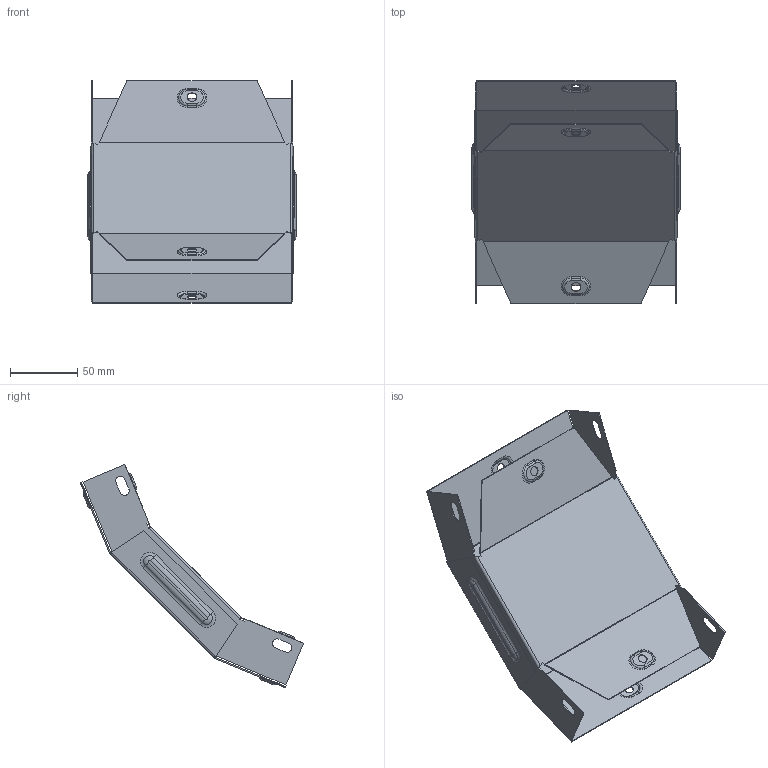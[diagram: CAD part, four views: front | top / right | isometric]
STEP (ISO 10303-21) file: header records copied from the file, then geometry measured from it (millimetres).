
FILE_DESCRIPTION (( 'STEP AP214' ), '1' );
FILE_NAME ('vo4535150_捘.STEP', '2019-06-10T08:16:12', ( '砐錪賧瘔蠈錪 Windows' ), ( '' ), 'SwSTEP 2.0', 'SolidWorks 2018', '' );
FILE_SCHEMA (( 'AUTOMOTIVE_DESIGN' ));
Length unit declared in the file: millimetre
Products named in the file (1): vo4535150_捘
Bounding box: 155.6 x 166.28 x 166.28 mm (x, y, z)
Volume: 63552.3 mm3; surface area: 160733.2 mm2
Topology: 2 solids, 2 shells, 352 faces, 858 edges, 532 vertices
Faces by surface type: plane 165, cylinder 106, torus 64, bspline 17
Entity records: 10922 total; most frequent: CARTESIAN_POINT 2507, DIRECTION 1772, ORIENTED_EDGE 1716, EDGE_CURVE 858, AXIS2_PLACEMENT_3D 628, VERTEX_POINT 532, LINE 516, VECTOR 516
